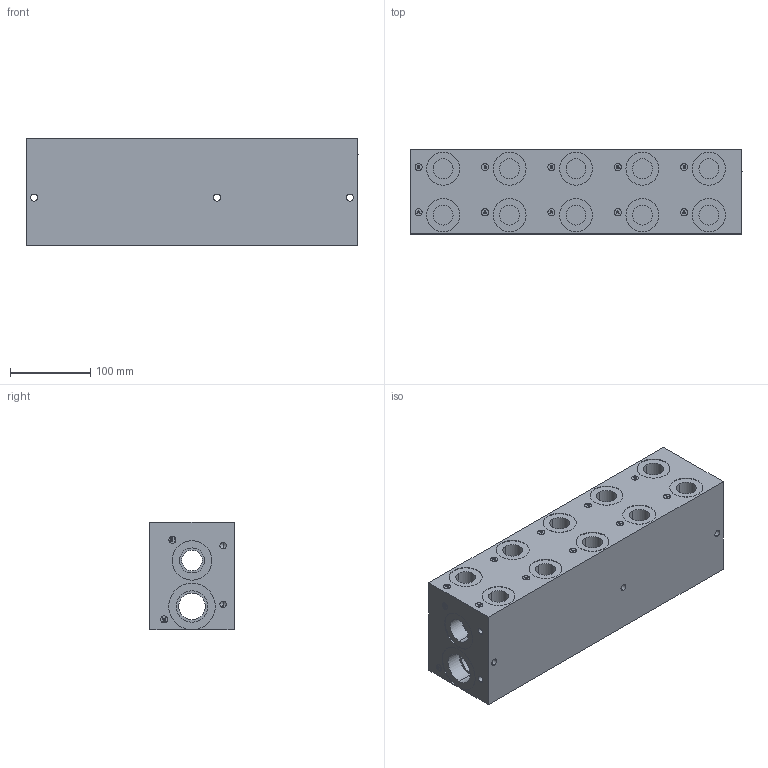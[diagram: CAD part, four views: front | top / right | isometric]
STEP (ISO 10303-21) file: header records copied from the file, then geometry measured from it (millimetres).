
FILE_DESCRIPTION (( 'STEP AP203' ), '1' );
FILE_NAME ('BM-AHP05S3-05-1_Z.STEP', '2015-01-06T16:00:38', ( '' ), ( '' ), 'SwSTEP 2.0', 'SolidWorks 2014', '' );
FILE_SCHEMA (( 'CONFIG_CONTROL_DESIGN' ));
Length unit declared in the file: inch
Products named in the file (1): BM-AHP05S3-05-1_Z
Bounding box: 412.75 x 104.65 x 133.35 mm (x, y, z)
Volume: 5026216.6 mm3; surface area: 336855.3 mm2
Topology: 1 solids, 1 shells, 662 faces, 1592 edges, 988 vertices
Faces by surface type: plane 282, cylinder 227, cone 88, bspline 65
Entity records: 22363 total; most frequent: CARTESIAN_POINT 7324, DIRECTION 3024, ORIENTED_EDGE 3008, EDGE_CURVE 1504, AXIS2_PLACEMENT_3D 1052, VERTEX_POINT 988, VECTOR 920, LINE 920
